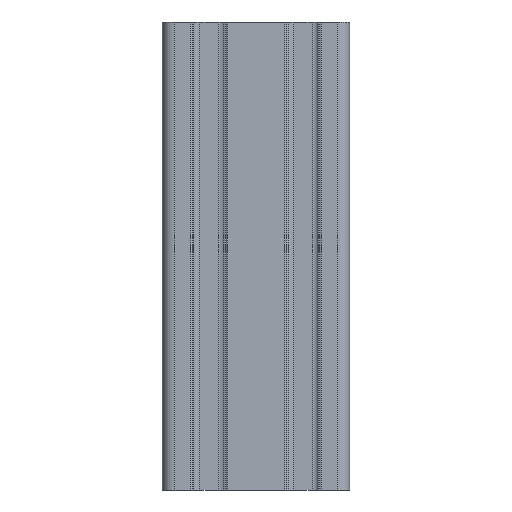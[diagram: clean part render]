
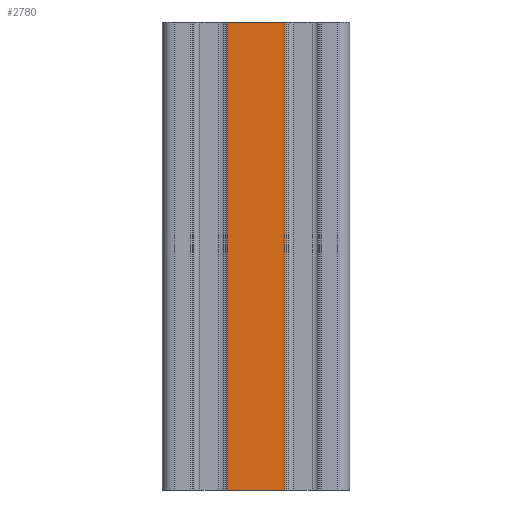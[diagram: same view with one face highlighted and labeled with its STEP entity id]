
A CAD part, front view. The second image highlights one B-rep face of the part: STEP entity #2780.
In plain terms, the highlighted planar face has unit normal (0, -1, 0).
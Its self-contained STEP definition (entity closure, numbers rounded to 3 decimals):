
#2722=CARTESIAN_POINT('',(703.455,196.915,100.0));
#2723=VERTEX_POINT('',#2722);
#2731=CARTESIAN_POINT('',(703.455,196.915,0.0));
#2732=VERTEX_POINT('',#2731);
#2733=CARTESIAN_POINT('',(703.455,196.915,0.0));
#2734=DIRECTION('',(0.0,0.0,1.0));
#2735=VECTOR('',#2734,100.0);
#2736=LINE('',#2733,#2735);
#2737=EDGE_CURVE('',#2732,#2723,#2736,.T.);
#2750=CARTESIAN_POINT('',(703.455,196.915,0.0));
#2751=DIRECTION('',(0.0,-1.0,0.0));
#2752=DIRECTION('',(0.0,0.0,-1.0));
#2753=AXIS2_PLACEMENT_3D('',#2750,#2751,#2752);
#2754=PLANE('',#2753);
#2755=CARTESIAN_POINT('',(691.255,196.915,100.0));
#2756=VERTEX_POINT('',#2755);
#2757=CARTESIAN_POINT('',(703.455,196.915,100.0));
#2758=DIRECTION('',(-1.0,0.0,0.0));
#2759=VECTOR('',#2758,12.2);
#2760=LINE('',#2757,#2759);
#2761=EDGE_CURVE('',#2723,#2756,#2760,.T.);
#2762=ORIENTED_EDGE('',*,*,#2761,.T.);
#2763=CARTESIAN_POINT('',(691.255,196.915,0.0));
#2764=VERTEX_POINT('',#2763);
#2765=CARTESIAN_POINT('',(691.255,196.915,0.0));
#2766=DIRECTION('',(0.0,0.0,1.0));
#2767=VECTOR('',#2766,100.0);
#2768=LINE('',#2765,#2767);
#2769=EDGE_CURVE('',#2764,#2756,#2768,.T.);
#2770=ORIENTED_EDGE('',*,*,#2769,.F.);
#2771=CARTESIAN_POINT('',(703.455,196.915,0.0));
#2772=DIRECTION('',(-1.0,0.0,0.0));
#2773=VECTOR('',#2772,12.2);
#2774=LINE('',#2771,#2773);
#2775=EDGE_CURVE('',#2732,#2764,#2774,.T.);
#2776=ORIENTED_EDGE('',*,*,#2775,.F.);
#2777=ORIENTED_EDGE('',*,*,#2737,.T.);
#2778=EDGE_LOOP('',(#2762,#2770,#2776,#2777));
#2779=FACE_OUTER_BOUND('',#2778,.T.);
#2780=ADVANCED_FACE('',(#2779),#2754,.T.);
